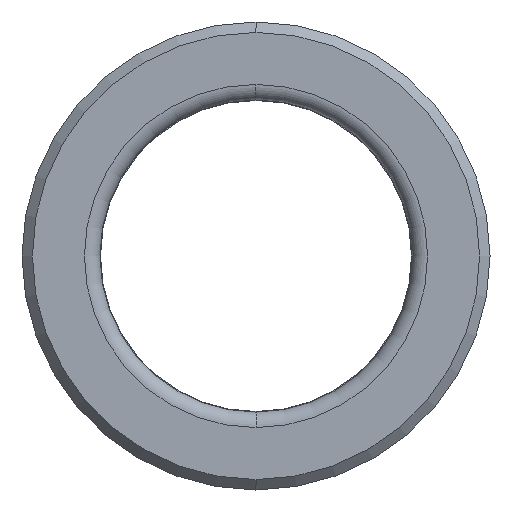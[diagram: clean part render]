
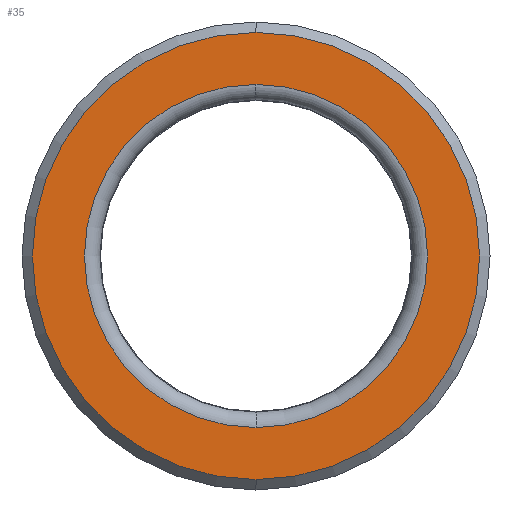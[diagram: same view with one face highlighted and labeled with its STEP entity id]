
A CAD part, left-side view. The second image highlights one B-rep face of the part: STEP entity #35.
In plain terms, the highlighted planar face has unit normal (-1, 0, 0).
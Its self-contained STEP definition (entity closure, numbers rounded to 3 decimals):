
#11 = VERTEX_POINT ( 'NONE', #617 ) ;
#19 = CARTESIAN_POINT ( 'NONE',  ( -9.09, 0., 21.5 ) ) ;
#35 = ADVANCED_FACE ( 'NONE', ( #600, #444 ), #435, .F. ) ;
#43 = VERTEX_POINT ( 'NONE', #19 ) ;
#57 = EDGE_CURVE ( 'NONE', #11, #43, #198, .T. ) ;
#93 = EDGE_CURVE ( 'NONE', #43, #11, #702, .T. ) ;
#103 = DIRECTION ( 'NONE',  ( -1., 0., 0. ) ) ;
#120 = AXIS2_PLACEMENT_3D ( 'NONE', #317, #268, #263 ) ;
#121 = AXIS2_PLACEMENT_3D ( 'NONE', #760, #279, #828 ) ;
#134 = VERTEX_POINT ( 'NONE', #652 ) ;
#152 = VERTEX_POINT ( 'NONE', #177 ) ;
#177 = CARTESIAN_POINT ( 'NONE',  ( -9.09, 0., -16.5 ) ) ;
#198 = CIRCLE ( 'NONE', #121, 21.5 ) ;
#202 = AXIS2_PLACEMENT_3D ( 'NONE', #623, #103, #492 ) ;
#209 = EDGE_LOOP ( 'NONE', ( #574, #256 ) ) ;
#225 = EDGE_CURVE ( 'NONE', #152, #134, #512, .T. ) ;
#256 = ORIENTED_EDGE ( 'NONE', *, *, #699, .T. ) ;
#263 = DIRECTION ( 'NONE',  ( 0., 0., -1. ) ) ;
#268 = DIRECTION ( 'NONE',  ( 1., 0., 0. ) ) ;
#279 = DIRECTION ( 'NONE',  ( -1., 0., 0. ) ) ;
#317 = CARTESIAN_POINT ( 'NONE',  ( -9.09, 0., 0. ) ) ;
#331 = ORIENTED_EDGE ( 'NONE', *, *, #57, .T. ) ;
#367 = CARTESIAN_POINT ( 'NONE',  ( -9.09, 0., 0. ) ) ;
#421 = DIRECTION ( 'NONE',  ( 0., 0., -1. ) ) ;
#435 = PLANE ( 'NONE',  #724 ) ;
#444 = FACE_OUTER_BOUND ( 'NONE', #833, .T. ) ;
#466 = CARTESIAN_POINT ( 'NONE',  ( -9.09, 22.5, 0. ) ) ;
#470 = DIRECTION ( 'NONE',  ( 1., 0., 0. ) ) ;
#492 = DIRECTION ( 'NONE',  ( 0., 0., -1. ) ) ;
#512 = CIRCLE ( 'NONE', #561, 16.5 ) ;
#561 = AXIS2_PLACEMENT_3D ( 'NONE', #367, #773, #847 ) ;
#574 = ORIENTED_EDGE ( 'NONE', *, *, #225, .T. ) ;
#600 = FACE_BOUND ( 'NONE', #209, .T. ) ;
#617 = CARTESIAN_POINT ( 'NONE',  ( -9.09, 0., -21.5 ) ) ;
#623 = CARTESIAN_POINT ( 'NONE',  ( -9.09, 0., 0. ) ) ;
#652 = CARTESIAN_POINT ( 'NONE',  ( -9.09, 0., 16.5 ) ) ;
#668 = CIRCLE ( 'NONE', #120, 16.5 ) ;
#699 = EDGE_CURVE ( 'NONE', #134, #152, #668, .T. ) ;
#702 = CIRCLE ( 'NONE', #202, 21.5 ) ;
#724 = AXIS2_PLACEMENT_3D ( 'NONE', #466, #470, #421 ) ;
#760 = CARTESIAN_POINT ( 'NONE',  ( -9.09, 0., 0. ) ) ;
#773 = DIRECTION ( 'NONE',  ( 1., 0., 0. ) ) ;
#824 = ORIENTED_EDGE ( 'NONE', *, *, #93, .T. ) ;
#828 = DIRECTION ( 'NONE',  ( 0., 0., -1. ) ) ;
#833 = EDGE_LOOP ( 'NONE', ( #331, #824 ) ) ;
#847 = DIRECTION ( 'NONE',  ( 0., 0., -1. ) ) ;
